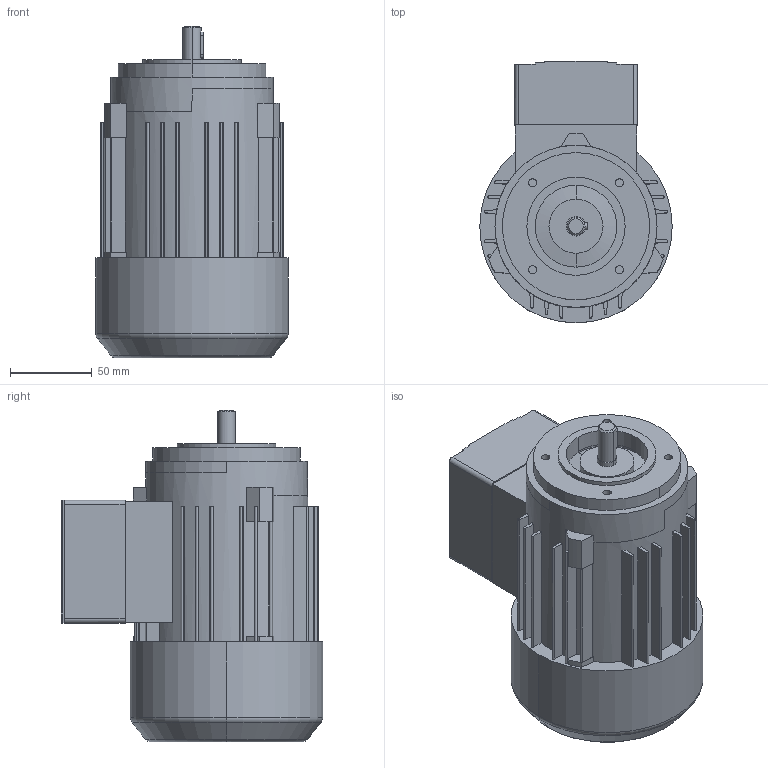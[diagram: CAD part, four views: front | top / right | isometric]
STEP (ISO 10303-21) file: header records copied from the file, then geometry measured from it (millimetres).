
FILE_DESCRIPTION((''),'2;1');
FILE_NAME('1LA7060-2AA12_PRT','2002-04-12T',('martin könig'),(''),'PRO/ENGINEER BY PARAMETRIC TECHNOLOGY CORPORATION, 2002030','PRO/ENGINEER BY PARAMETRIC TECHNOLOGY CORPORATION, 2002030','');
FILE_SCHEMA(('CONFIG_CONTROL_DESIGN'));
Length unit declared in the file: millimetre
Products named in the file (1): 1LA7060-2AA12_PRT
Bounding box: 117.6 x 159.8 x 202.5 mm (x, y, z)
Volume: 1869168.5 mm3; surface area: 122485.4 mm2
Topology: 1 solids, 1 shells, 213 faces, 585 edges, 387 vertices
Faces by surface type: plane 132, cylinder 71, cone 6, torus 4
Entity records: 6884 total; most frequent: DIRECTION 1221, CARTESIAN_POINT 1216, ORIENTED_EDGE 1170, EDGE_CURVE 585, AXIS2_PLACEMENT_3D 425, VERTEX_POINT 387, VECTOR 371, LINE 371
